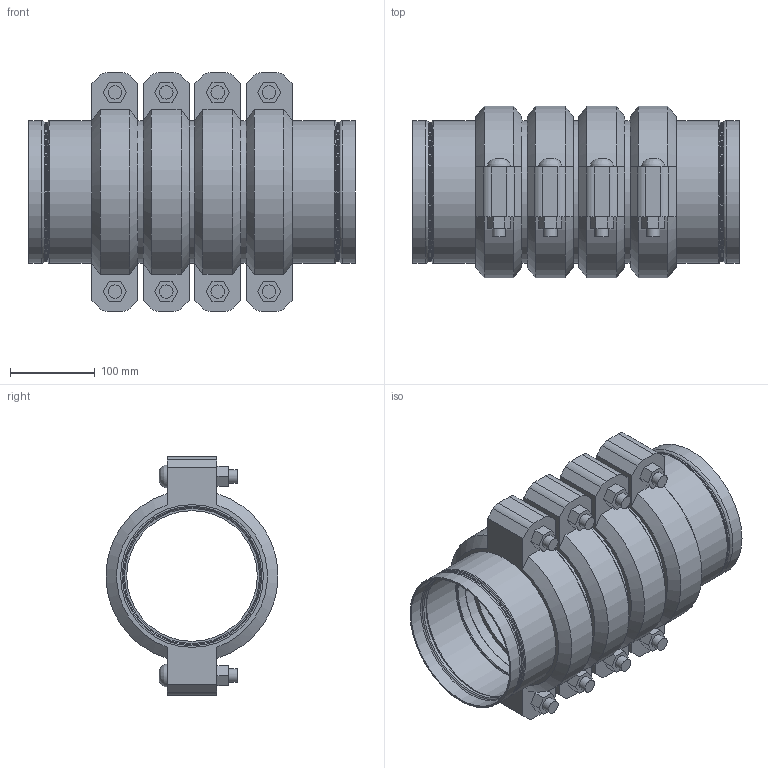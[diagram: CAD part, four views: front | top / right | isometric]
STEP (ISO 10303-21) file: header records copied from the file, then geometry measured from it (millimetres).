
FILE_DESCRIPTION(/* description */ ('VIC STRENGTHIN 100 EXPANSION JOINT 4 COUPLINGS COMPRESSED STYLE E155 (ST1)','CAx-IF Rec.Pracs.---Representation and Presentation of Product Manufacturing Information (PMI)---4.0---2014-10-13'),/* implementation_level */ '2;1');
FILE_NAME(/* name */ 'C:\Users\Vjadhav\AppData\Roaming\Autodesk\ApplicationPlugins\Victaulic.Temp\A975\Victaulic_SS-StrengThin 100_Expansion Joint_Compressed_4 Couplings_Style E155 (ST1)_6 (150).stp',/* time_stamp */ '2021-07-23T12:31:38+05:00',/* author */ ('kkamble'),/* organization */ ('Victaulic'),/* preprocessor_version */ 'ST-DEVELOPER v17.2',/* originating_system */ 'Autodesk Inventor 2019',/* authorisation */ '');
FILE_SCHEMA (('AP242_MANAGED_MODEL_BASED_3D_ENGINEERING_MIM_LF { 1 0 10303 442 1 1 4 }'));
Length unit declared in the file: inch
Products named in the file (4): E155-06.0; E494G-06.0; Nipple-06.0; 075-06.0
Assembly tree (9 placements, depth 2):
  E155-06.0
    E494G-06.0  x2
    Nipple-06.0  x3
    075-06.0  x4
Bounding box: 385.32 x 202.46 x 281.18 mm (x, y, z)
Volume: 3818724.2 mm3; surface area: 883979.2 mm2
Topology: 9 solids, 17 shells, 316 faces, 820 edges, 582 vertices
Faces by surface type: plane 166, cylinder 90, torus 32, cone 20, bspline 8
Full cylindrical faces by diameter (mm): 15.875 x16, 17.424 x8, 154.051 x3, 159.258 x2, 159.944 x2, 163.271 x2, 163.957 x8, 164.262 x6, 168.275 x19
Entity records: 3631 total; most frequent: DIRECTION 643, CARTESIAN_POINT 641, ORIENTED_EDGE 536, AXIS2_PLACEMENT_3D 273, EDGE_CURVE 268, VERTEX_POINT 193, CIRCLE 163, EDGE_LOOP 123
